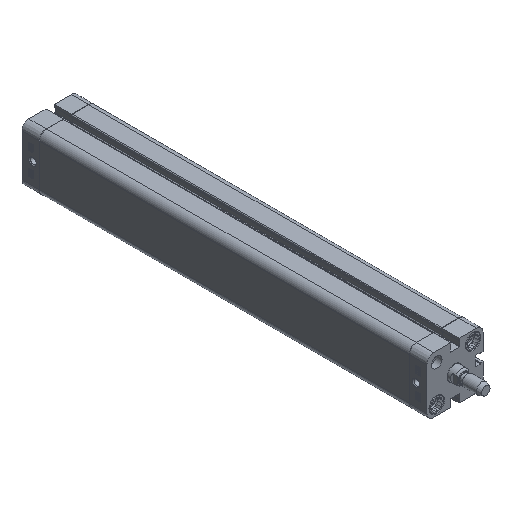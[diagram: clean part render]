
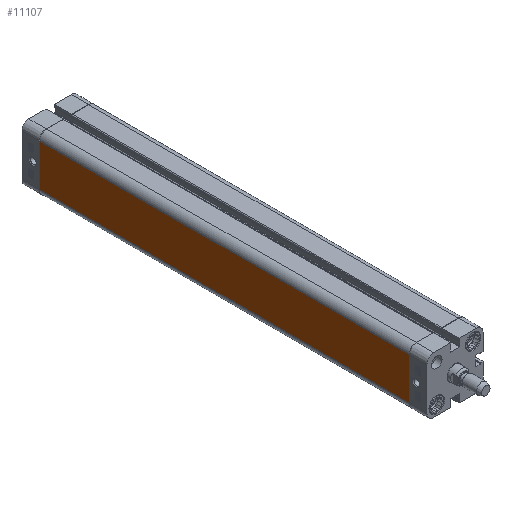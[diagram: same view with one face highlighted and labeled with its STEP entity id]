
A CAD part, isometric view. The second image highlights one B-rep face of the part: STEP entity #11107.
In plain terms, the highlighted planar face has unit normal (-1, 0, 0).
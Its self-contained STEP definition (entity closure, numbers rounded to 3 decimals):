
#8889=CARTESIAN_POINT('',(-20.,-264.0,15.0));
#8890=VERTEX_POINT('',#8889);
#8898=CARTESIAN_POINT('',(-20.,-264.0,-15.));
#8899=VERTEX_POINT('',#8898);
#8900=CARTESIAN_POINT('',(-20.,-264.0,-15.));
#8901=DIRECTION('',(0.0,0.0,1.0));
#8902=VECTOR('',#8901,30.);
#8903=LINE('',#8900,#8902);
#8904=EDGE_CURVE('',#8899,#8890,#8903,.T.);
#10035=CARTESIAN_POINT('',(-20.,0.0,15.0));
#10036=VERTEX_POINT('',#10035);
#10044=CARTESIAN_POINT('',(-20.,0.0,15.0));
#10045=DIRECTION('',(0.0,-1.0,0.0));
#10046=VECTOR('',#10045,264.0);
#10047=LINE('',#10044,#10046);
#10048=EDGE_CURVE('',#10036,#8890,#10047,.T.);
#11072=CARTESIAN_POINT('',(-20.,0.0,-15.));
#11073=VERTEX_POINT('',#11072);
#11074=CARTESIAN_POINT('',(-20.,0.0,-15.));
#11075=DIRECTION('',(0.0,-1.0,0.0));
#11076=VECTOR('',#11075,264.0);
#11077=LINE('',#11074,#11076);
#11078=EDGE_CURVE('',#11073,#8899,#11077,.T.);
#11091=CARTESIAN_POINT('',(-20.,0.0,-15.));
#11092=DIRECTION('',(-1.0,0.0,0.0));
#11093=DIRECTION('',(0.0,0.0,1.0));
#11094=AXIS2_PLACEMENT_3D('',#11091,#11092,#11093);
#11095=PLANE('',#11094);
#11096=ORIENTED_EDGE('',*,*,#8904,.T.);
#11097=ORIENTED_EDGE('',*,*,#10048,.F.);
#11098=CARTESIAN_POINT('',(-20.,0.0,-15.));
#11099=DIRECTION('',(0.0,0.0,1.0));
#11100=VECTOR('',#11099,30.);
#11101=LINE('',#11098,#11100);
#11102=EDGE_CURVE('',#11073,#10036,#11101,.T.);
#11103=ORIENTED_EDGE('',*,*,#11102,.F.);
#11104=ORIENTED_EDGE('',*,*,#11078,.T.);
#11105=EDGE_LOOP('',(#11096,#11097,#11103,#11104));
#11106=FACE_OUTER_BOUND('',#11105,.T.);
#11107=ADVANCED_FACE('',(#11106),#11095,.T.);
